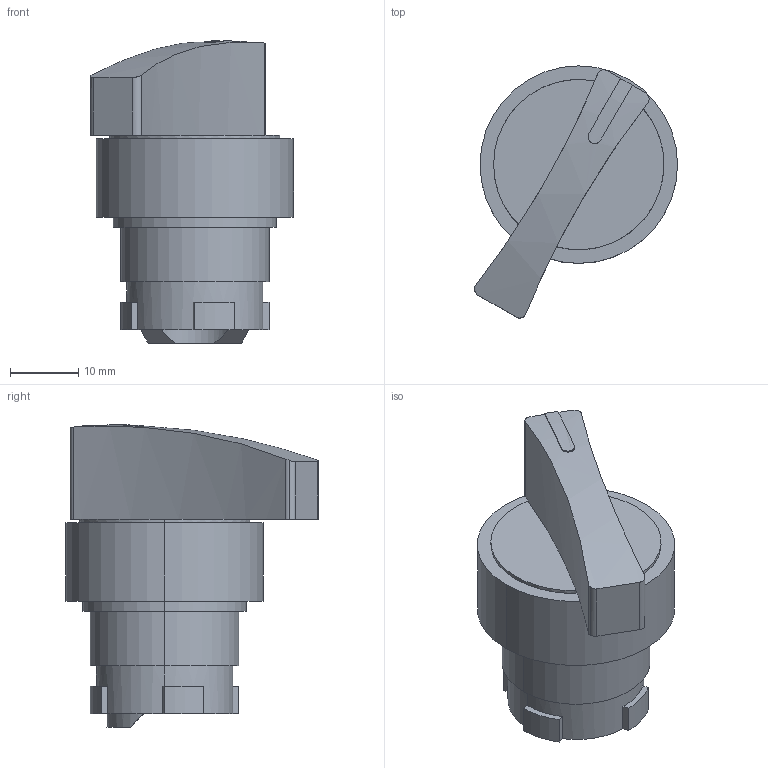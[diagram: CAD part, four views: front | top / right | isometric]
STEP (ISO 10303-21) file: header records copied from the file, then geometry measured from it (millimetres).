
FILE_DESCRIPTION (( 'STEP AP214' ), '1' );
FILE_NAME ('3D 斁麧錪 MTB2-BJ2.STEP', '2017-04-19T10:42:25', ( 'adm' ), ( 'MICROSOFT' ), 'SwSTEP 2.0', 'SolidWorks 2011', '' );
FILE_SCHEMA (( 'AUTOMOTIVE_DESIGN' ));
Length unit declared in the file: millimetre
Products named in the file (1): 3D 斁麧錪 MTB2-BJ2
Bounding box: 29.81 x 37.04 x 44.37 mm (x, y, z)
Volume: 16298.6 mm3; surface area: 5863.2 mm2
Topology: 1 solids, 1 shells, 86 faces, 218 edges, 142 vertices
Faces by surface type: plane 47, cylinder 35, torus 2, cone 2
Entity records: 3639 total; most frequent: CARTESIAN_POINT 540, DIRECTION 457, ORIENTED_EDGE 436, EDGE_CURVE 218, AXIS2_PLACEMENT_3D 169, VERTEX_POINT 142, LINE 119, VECTOR 119
